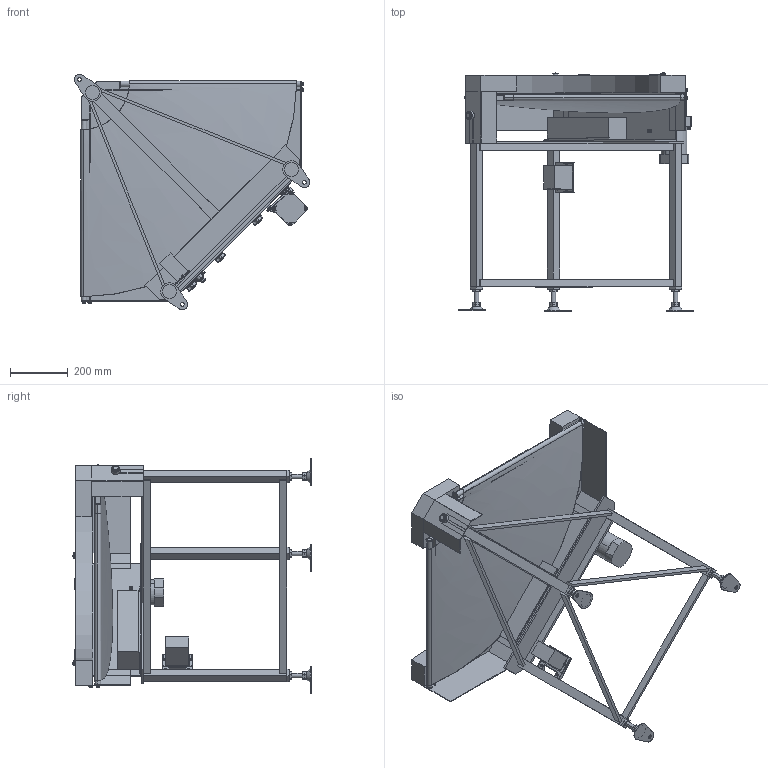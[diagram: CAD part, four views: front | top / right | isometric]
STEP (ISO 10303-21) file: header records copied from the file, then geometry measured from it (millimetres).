
FILE_DESCRIPTION( (''), '2;1');
FILE_NAME ('GBC-HS-309-500-90°-R-K-60.stp','2025-02-03T10:03:21',(''),(''),'spGate 20.6.2 (****-****-****-****)','','');
FILE_SCHEMA (('AUTOMOTIVE_DESIGN'));
Length unit declared in the file: millimetre
Products named in the file (75): NewModel; TEMP_X_T-prt0; TEMP_X_T-prt1; TEMP_X_T-prt2; TEMP_X_T-prt3; TEMP_X_T-prt4; TEMP_X_T-prt5; TEMP_X_T-prt6; TEMP_X_T-prt7; TEMP_X_T-prt8; TEMP_X_T-prt9; TEMP_X_T-prt10; TEMP_X_T-prt11; TEMP_X_T-prt12; TEMP_X_T-prt13; TEMP_X_T-prt14; TEMP_X_T-prt15; TEMP_X_T-prt16; TEMP_X_T-prt17; TEMP_X_T-prt18; TEMP_X_T-prt19; TEMP_X_T-prt20; TEMP_X_T-prt21; TEMP_X_T-prt22; TEMP_X_T-prt23; TEMP_X_T-prt24; TEMP_X_T-prt25; TEMP_X_T-prt26; TEMP_X_T-prt27; TEMP_X_T-prt28; TEMP_X_T-prt29; TEMP_X_T-prt30; TEMP_X_T-prt31; TEMP_X_T-prt32; TEMP_X_T-prt33; TEMP_X_T-prt34; TEMP_X_T-prt35; TEMP_X_T-prt36; TEMP_X_T-prt37; TEMP_X_T-prt38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
Assembly tree (74 placements, depth 2):
  NewModel
    TEMP_X_T-prt0
    TEMP_X_T-prt1
    TEMP_X_T-prt2
    TEMP_X_T-prt3
    TEMP_X_T-prt4
    TEMP_X_T-prt5
    TEMP_X_T-prt6
    TEMP_X_T-prt7
    TEMP_X_T-prt8
    TEMP_X_T-prt9
    TEMP_X_T-prt10
    TEMP_X_T-prt11
    TEMP_X_T-prt12
    TEMP_X_T-prt13
    TEMP_X_T-prt14
    TEMP_X_T-prt15
    TEMP_X_T-prt16
    TEMP_X_T-prt17
    TEMP_X_T-prt18
    TEMP_X_T-prt19
    TEMP_X_T-prt20
    TEMP_X_T-prt21
    TEMP_X_T-prt22
    TEMP_X_T-prt23
    TEMP_X_T-prt24
    TEMP_X_T-prt25
    TEMP_X_T-prt26
    TEMP_X_T-prt27
    TEMP_X_T-prt28
    TEMP_X_T-prt29
    TEMP_X_T-prt30
    TEMP_X_T-prt31
    TEMP_X_T-prt32
    TEMP_X_T-prt33
    TEMP_X_T-prt34
    TEMP_X_T-prt35
    TEMP_X_T-prt36
    TEMP_X_T-prt37
    TEMP_X_T-prt38
    TEMP_X_T-prt39
    TEMP_X_T-prt40
    TEMP_X_T-prt41
    TEMP_X_T-prt42
    TEMP_X_T-prt43
    TEMP_X_T-prt44
    TEMP_X_T-prt45
    TEMP_X_T-prt46
    TEMP_X_T-prt47
    TEMP_X_T-prt48
    TEMP_X_T-prt49
    TEMP_X_T-prt50
    TEMP_X_T-prt51
    TEMP_X_T-prt52
    TEMP_X_T-prt53
    TEMP_X_T-prt54
    TEMP_X_T-prt55
    TEMP_X_T-prt56
    TEMP_X_T-prt57
    TEMP_X_T-prt58
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Bounding box: 818.52 x 827.92 x 818.52 mm (x, y, z)
Volume: 19027695.8 mm3; surface area: 4709890.4 mm2
Topology: 74 solids, 74 shells, 1544 faces, 3517 edges, 2204 vertices
Faces by surface type: plane 888, cylinder 405, bspline 243, sphere 8
Entity records: 81895 total; most frequent: CARTESIAN_POINT 16049, DIRECTION 7268, ORIENTED_EDGE 6986, COLOUR_RGB 5111, PRESENTATION_STYLE_ASSIGNMENT 5111, STYLED_ITEM 5111, EDGE_CURVE 3493, DRAUGHTING_PRE_DEFINED_CURVE_FONT 3493
